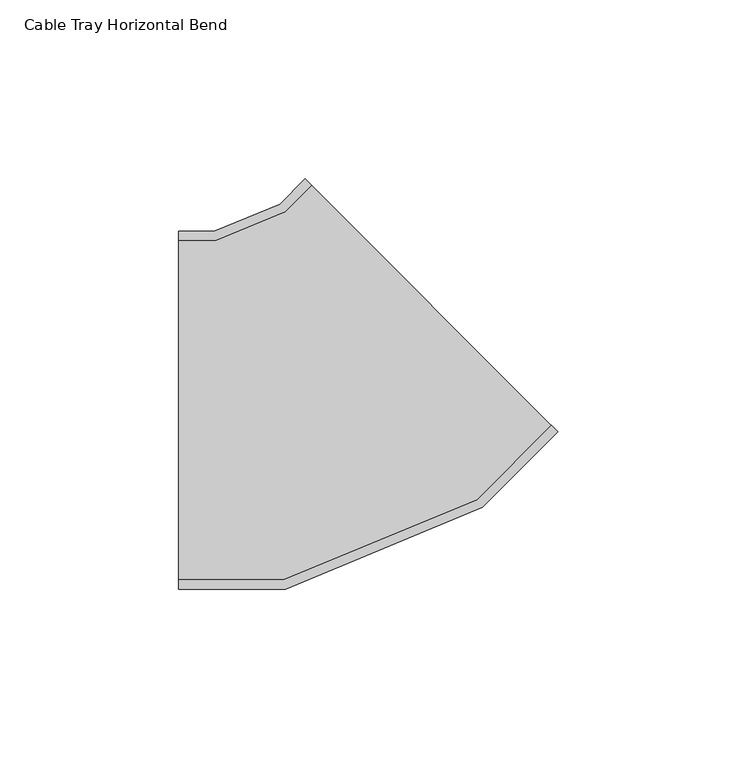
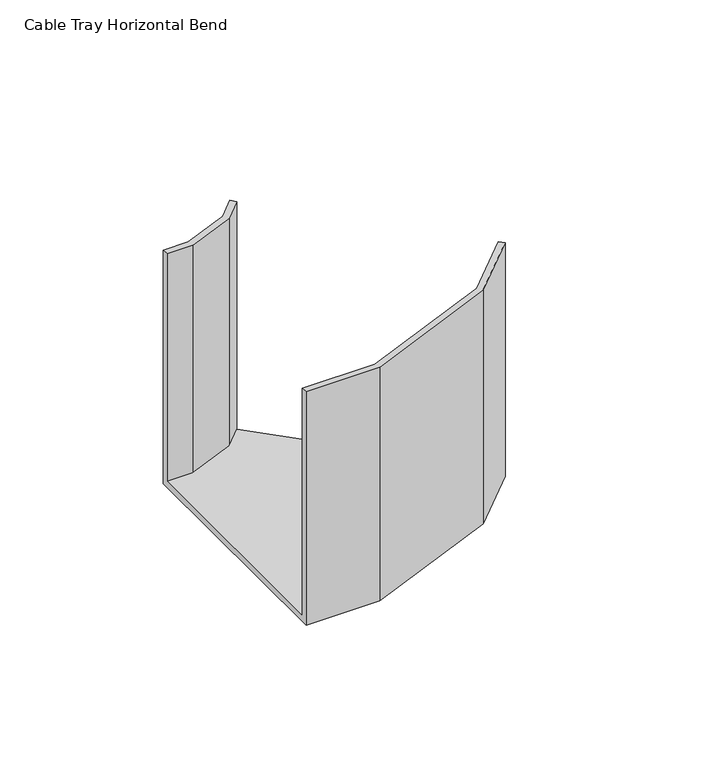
"""IFC4 building model written with IfcOpenShell, lengths in millimetres: cable carrier fitting geometry, Cable Tray Horizontal Bend : ELEC_ELV_TKG_N2402."""

from ifc_helpers import new_model, si_unit, origin, place, context, project, spatial, faceted_brep, source, transform, mapped, element, save


def cable_tray_horizontal_bend_03af3673(model_context):
    return source(origin(), model_context, "Body", "Brep", [
        faceted_brep([(-41.4213575, -50.0, -50.0), (-41.4213575, -50.0, 50.0), (-41.4213575, -47.46, 50.0), (-41.4213575, -47.46, -47.46), (-41.4213575, 47.46, -47.46), (-41.4213575, 47.46, 50.0), (-41.4213575, 50.0, 50.0), (-41.4213575, 50.0, -50.0), (64.644662, -6.0660149, -50.0), (-6.0660177, 64.6446617, -50.0), (-6.0660177, 64.6446617, 50.0), (-4.2699664, 62.8486105, 50.0), (-4.2699664, 62.8486105, -47.46), (62.8486107, -4.2699637, -47.46), (62.8486107, -4.2699637, 50.0), (64.644662, -6.0660149, 50.0), (-11.5845016, -50.0, -50.0), (-11.5845016, -50.0, 50.0), (43.5468193, -27.1638585, 50.0), (42.1080248, -25.0105505, 50.0), (-12.089739, -47.46, 50.0), (-12.089739, -47.46, -47.46), (42.1080248, -25.0105505, -47.46), (-11.6598375, 55.4587392, -47.46), (-30.9705014, 47.46, -47.46), (-30.9705014, 47.46, 50.0), (-11.6598375, 55.4587392, 50.0), (-13.0986319, 57.6120472, 50.0), (-31.4757389, 50.0, 50.0), (-31.4757389, 50.0, -50.0), (-13.0986319, 57.6120472, -50.0), (43.5468193, -27.1638585, -50.0)], [[[0, 1, 2, 3, 4, 5, 6, 7]], [[8, 9, 10, 11, 12, 13, 14, 15]], [[1, 0, 16, 17]], [[2, 1, 17, 18, 15, 14, 19, 20]], [[3, 2, 20, 21]], [[4, 3, 21, 22, 13, 12, 23, 24]], [[5, 4, 24, 25]], [[6, 5, 25, 26, 11, 10, 27, 28]], [[7, 6, 28, 29]], [[0, 7, 29, 30, 9, 8, 31, 16]], [[17, 16, 31, 18]], [[21, 20, 19, 22]], [[25, 24, 23, 26]], [[29, 28, 27, 30]], [[18, 31, 8, 15]], [[22, 19, 14, 13]], [[26, 23, 12, 11]], [[30, 27, 10, 9]]]),
    ])


if __name__ == "__main__":
    model = new_model("IFC4")
    model_context = context("Model", 3, world=origin())
    ifc_project = project(units=[si_unit("LENGTHUNIT", "METRE", prefix="MILLI")], contexts=[model_context])
    site = spatial("IfcSite", under=ifc_project)
    building = spatial("IfcBuilding", under=site)
    placement = place(None, origin())
    cable_tray_horizontal_bend_shape = cable_tray_horizontal_bend_03af3673(model_context)
    element("IfcCableCarrierFitting", 1, ObjectType="Cable Tray Horizontal Bend : ELEC_ELV_TKG_N2402", at=placement, inside=building, context=model_context, shape_type="MappedRepresentation", body=[
        mapped(cable_tray_horizontal_bend_shape, transform((0.0, 0.0, 0.0), x_axis=(1.0, 0.0, 0.0), y_axis=(0.0, 1.0, 0.0), z_axis=(0.0, 0.0, 1.0))),
    ])
    save(model, "model.ifc")
